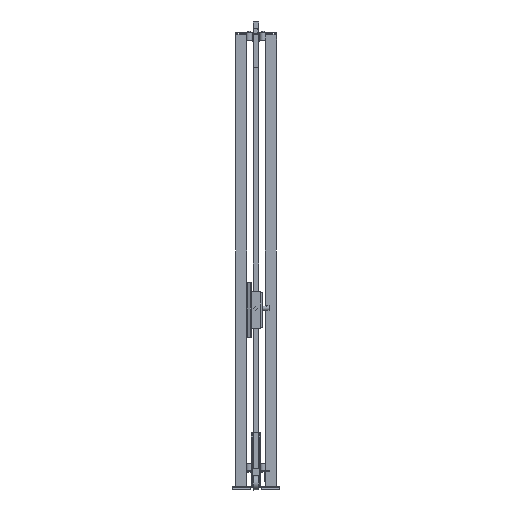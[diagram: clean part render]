
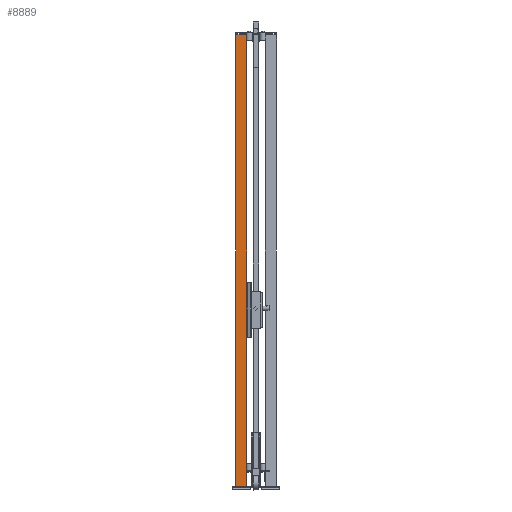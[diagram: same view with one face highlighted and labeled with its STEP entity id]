
A CAD part, left-side view. The second image highlights one B-rep face of the part: STEP entity #8889.
In plain terms, the highlighted planar face has unit normal (-1, 0, 0) as drawn and (0, 1, 0) by its records, which use the part's own axes.
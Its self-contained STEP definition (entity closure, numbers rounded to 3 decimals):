
#1119=FACE_OUTER_BOUND('',#1603,.T.);
#1603=EDGE_LOOP('',(#6557,#6558,#6559,#6560));
#2410=LINE('',#13636,#3582);
#2416=LINE('',#13648,#3588);
#2419=LINE('',#13653,#3591);
#2420=LINE('',#13655,#3592);
#3582=VECTOR('',#10581,1.);
#3588=VECTOR('',#10589,1.);
#3591=VECTOR('',#10596,1.);
#3592=VECTOR('',#10599,1.);
#4485=VERTEX_POINT('',#13633);
#4486=VERTEX_POINT('',#13635);
#4488=VERTEX_POINT('',#13641);
#4491=VERTEX_POINT('',#13646);
#5279=EDGE_CURVE('',#4485,#4486,#2410,.T.);
#5285=EDGE_CURVE('',#4491,#4488,#2416,.T.);
#5288=EDGE_CURVE('',#4486,#4491,#2419,.T.);
#5289=EDGE_CURVE('',#4485,#4488,#2420,.T.);
#6557=ORIENTED_EDGE('',*,*,#5289,.T.);
#6558=ORIENTED_EDGE('',*,*,#5285,.F.);
#6559=ORIENTED_EDGE('',*,*,#5288,.F.);
#6560=ORIENTED_EDGE('',*,*,#5279,.F.);
#8487=PLANE('',#9436);
#8889=ADVANCED_FACE('',(#1119),#8487,.F.);
#9436=AXIS2_PLACEMENT_3D('',#13654,#10597,#10598);
#10581=DIRECTION('',(-1.,0.,0.));
#10589=DIRECTION('',(1.,0.,0.));
#10596=DIRECTION('',(0.,0.,-1.));
#10597=DIRECTION('center_axis',(0.,-1.,0.));
#10598=DIRECTION('ref_axis',(0.,0.,-1.));
#10599=DIRECTION('',(0.,0.,-1.));
#13633=CARTESIAN_POINT('',(30.,30.,2520.));
#13635=CARTESIAN_POINT('',(-30.,30.,2520.));
#13636=CARTESIAN_POINT('',(0.,30.,2520.));
#13641=CARTESIAN_POINT('',(30.,30.,20.));
#13646=CARTESIAN_POINT('',(-30.,30.,20.));
#13648=CARTESIAN_POINT('',(0.,30.,20.));
#13653=CARTESIAN_POINT('',(-30.,30.,1270.));
#13654=CARTESIAN_POINT('Origin',(0.,30.,
1270.));
#13655=CARTESIAN_POINT('',(30.,30.,1270.));
